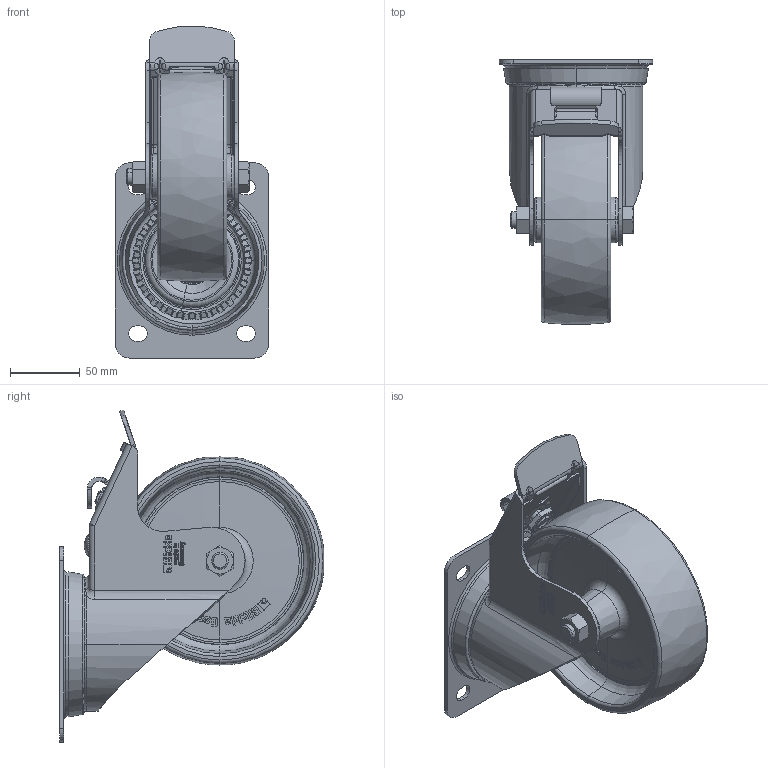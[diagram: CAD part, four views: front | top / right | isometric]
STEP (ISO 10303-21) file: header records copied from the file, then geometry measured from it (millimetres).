
FILE_DESCRIPTION (( 'STEP AP214' ), '1' );
FILE_NAME ('LX-PO_150G-FI_009720-214.step', '2022-01-06T09:45:15', ( '' ), ( '' ), 'SwSTEP 2.0', 'SolidWorks 2018', '' );
FILE_SCHEMA (( 'AUTOMOTIVE_DESIGN' ));
Length unit declared in the file: millimetre
Products named in the file (5): PO_150-160_3D_G16_PO_150_20G_005504; PO_150_20G_G16_3D; GH-LX_100-200_GH-LX-150x60-03-FI_20x61; GH-LX-150x60-03-FI_20x61_G16_3D; LX-PO_150G-FI_009720-214
Assembly tree (4 placements, depth 3):
  LX-PO_150G-FI_009720-214
    GH-LX_100-200_GH-LX-150x60-03-FI_20x61
      GH-LX-150x60-03-FI_20x61_G16_3D
    PO_150-160_3D_G16_PO_150_20G_005504
      PO_150_20G_G16_3D
Bounding box: 110 x 189.85 x 238.16 mm (x, y, z)
Volume: 613771.3 mm3; surface area: 213921.5 mm2
Topology: 2 solids, 8 shells, 2910 faces, 7846 edges, 5087 vertices
Faces by surface type: plane 1286, bspline 1023, cylinder 296, cone 187, torus 110, sphere 8
Entity records: 115665 total; most frequent: CARTESIAN_POINT 50711, ORIENTED_EDGE 15668, DIRECTION 9260, EDGE_CURVE 7834, VERTEX_POINT 5087, LINE 3738, VECTOR 3738, B_SPLINE_CURVE_WITH_KNOTS 3185
